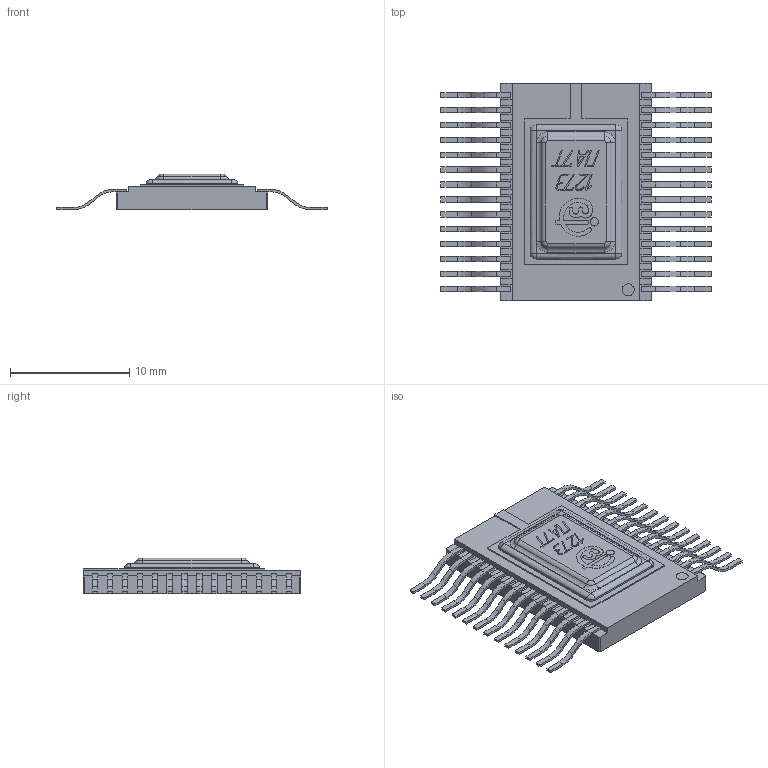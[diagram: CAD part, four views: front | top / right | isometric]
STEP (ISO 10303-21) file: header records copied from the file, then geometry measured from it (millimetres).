
FILE_DESCRIPTION(('STEP AP214'), '1');
FILE_NAME('1273ﾏﾀ7ﾒ', '', ('UNSPECIFIED'), ('UNSPECIFIED'), 'ASCON STEP Converter 1.6', 'ASCON Math Kernel', '');
FILE_SCHEMA(('AUTOMOTIVE_DESIGN { 1 0 10303 214 3 1 1}'));
Length unit declared in the file: millimetre
Bounding box: 22.7 x 18.25 x 3 mm (x, y, z)
Volume: 534.4 mm3; surface area: 1262.2 mm2
Topology: 32 solids, 32 shells, 992 faces, 2676 edges, 1756 vertices
Faces by surface type: plane 757, cylinder 208, extrusion 11, torus 8, bspline 8
Full cylindrical faces by diameter (mm): 0.7 x1, 1 x1
Entity records: 39822 total; most frequent: CARTESIAN_POINT 6446, ORIENTED_EDGE 5340, DIRECTION 5027, EDGE_CURVE 2670, VECTOR 2223, LINE 2212, VERTEX_POINT 1756, AXIS2_PLACEMENT_3D 1402
